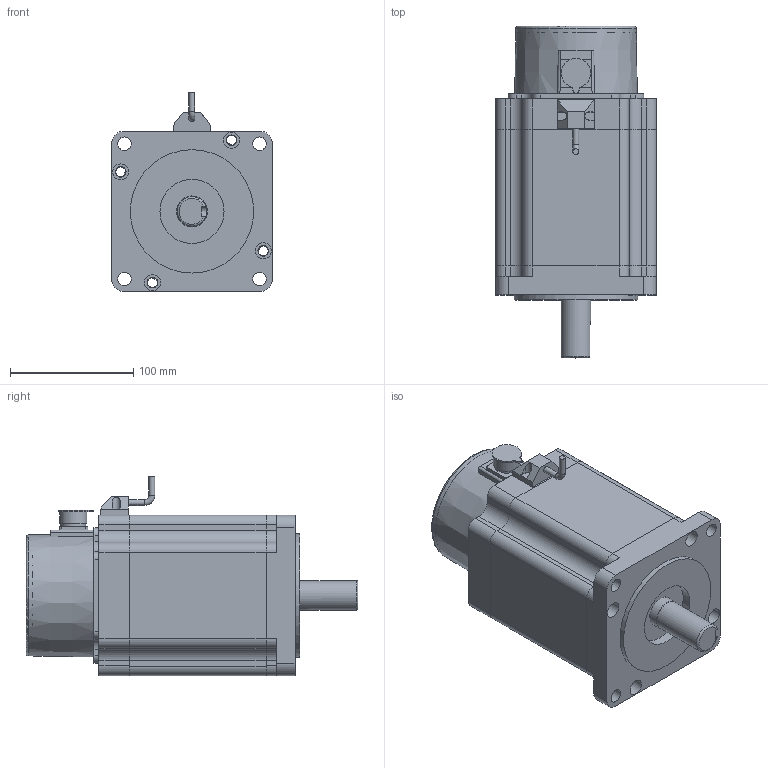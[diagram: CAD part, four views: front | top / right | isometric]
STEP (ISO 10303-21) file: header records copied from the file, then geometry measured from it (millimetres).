
FILE_DESCRIPTION(/* description */ (''),/* implementation_level */ '2;1');
FILE_NAME(/* name */ '130BYG350A.stp',/* time_stamp */ '2024-12-18T14:27:14+08:00',/* author */ (''),/* organization */ (''),/* preprocessor_version */ 'ST-DEVELOPER v18.1',/* originating_system */ 'SIEMENS PLM Software NX 2000',/* authorisation */ '');
FILE_SCHEMA (('AUTOMOTIVE_DESIGN { 1 0 10303 214 3 1 1 1 }'));
Length unit declared in the file: millimetre
Products named in the file (1): 92503CB85CA0kr0t
Bounding box: 130 x 269 x 161.44 mm (x, y, z)
Volume: 2453960.7 mm3; surface area: 271978.8 mm2
Topology: 9 solids, 9 shells, 414 faces, 1173 edges, 789 vertices
Faces by surface type: plane 301, cylinder 107, torus 4, cone 2
Full cylindrical faces by diameter (mm): 3 x4, 4.8 x2, 6.5 x4, 7 x1, 8 x4, 8.5 x12, 11 x4, 13 x4, 16.5 x1, 20.196 x2, 22.032 x1, 24 x1, 24.7 x1, 25 x1, 52 x1, 100 x1
Entity records: 13497 total; most frequent: CARTESIAN_POINT 2571, ORIENTED_EDGE 2176, DIRECTION 2124, EDGE_CURVE 1088, LINE 862, VECTOR 862, VERTEX_POINT 754, EDGE_LOOP 632
